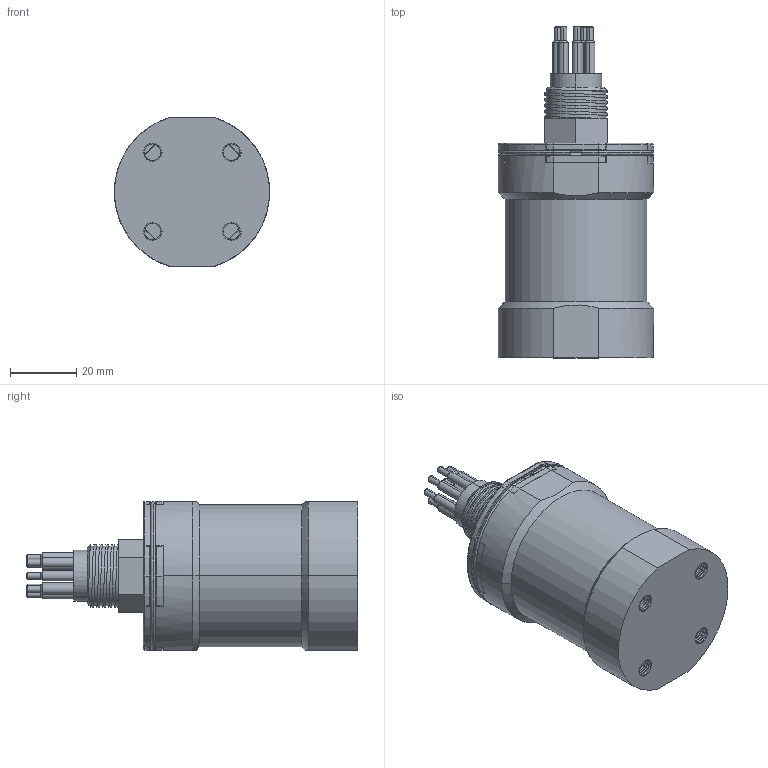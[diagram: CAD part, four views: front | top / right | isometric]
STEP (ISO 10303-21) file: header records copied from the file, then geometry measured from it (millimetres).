
FILE_DESCRIPTION (( 'STEP AP214' ), '1' );
FILE_NAME ('ISM3d.STEP', '2017-03-06T20:20:45', ( '' ), ( '' ), 'SwSTEP 2.0', 'SolidWorks 2017', '' );
FILE_SCHEMA (( 'AUTOMOTIVE_DESIGN' ));
Length unit declared in the file: millimetre
Products named in the file (1): ISM3d
Bounding box: 47 x 100.5 x 45.1 mm (x, y, z)
Surface area: 18577.1 mm2 (no closed solid volume)
Topology: 0 solids, 6 shells, 387 faces, 1256 edges, 866 vertices
Faces by surface type: cylinder 174, plane 102, cone 46, bspline 40, torus 25
Entity records: 22889 total; most frequent: CARTESIAN_POINT 8463, ORIENTED_EDGE 2118, DIRECTION 1956, EDGE_CURVE 1256, VERTEX_POINT 866, AXIS2_PLACEMENT_3D 710, VECTOR 536, LINE 536
